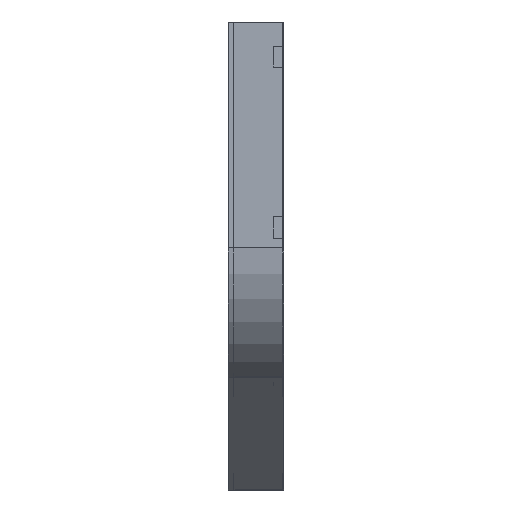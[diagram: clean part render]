
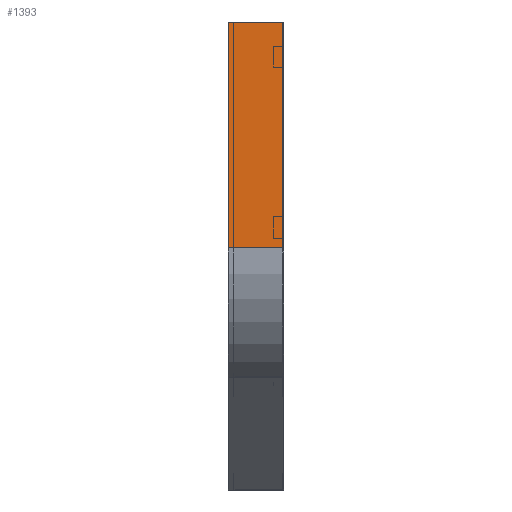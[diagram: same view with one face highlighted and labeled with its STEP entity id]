
A CAD part, left-side view. The second image highlights one B-rep face of the part: STEP entity #1393.
In plain terms, the highlighted planar face has unit normal (-1, 0, 0).
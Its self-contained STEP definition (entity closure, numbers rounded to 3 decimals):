
#13 = DIRECTION ( 'NONE',  ( 0., -1., 0. ) ) ;
#42 = VECTOR ( 'NONE', #13, 1000. ) ;
#55 = CARTESIAN_POINT ( 'NONE',  ( 0., 0., -454.145 ) ) ;
#56 = LINE ( 'NONE', #1333, #1825 ) ;
#114 = AXIS2_PLACEMENT_3D ( 'NONE', #1718, #1603, #1551 ) ;
#270 = CARTESIAN_POINT ( 'NONE',  ( 0., 112.5, 0. ) ) ;
#334 = LINE ( 'NONE', #55, #1310 ) ;
#453 = PLANE ( 'NONE',  #114 ) ;
#465 = DIRECTION ( 'NONE',  ( 0., 0., -1. ) ) ;
#514 = ORIENTED_EDGE ( 'NONE', *, *, #1038, .T. ) ;
#550 = CARTESIAN_POINT ( 'NONE',  ( 0., 112.5, -454.145 ) ) ;
#617 = VERTEX_POINT ( 'NONE', #550 ) ;
#669 = EDGE_LOOP ( 'NONE', ( #1622, #784, #1451, #514 ) ) ;
#722 = EDGE_CURVE ( 'NONE', #1688, #617, #56, .T. ) ;
#784 = ORIENTED_EDGE ( 'NONE', *, *, #874, .F. ) ;
#818 = CARTESIAN_POINT ( 'NONE',  ( 0., 0., 0. ) ) ;
#861 = CARTESIAN_POINT ( 'NONE',  ( 0., 0., -454.145 ) ) ;
#874 = EDGE_CURVE ( 'NONE', #1688, #1253, #1168, .T. ) ;
#1038 = EDGE_CURVE ( 'NONE', #617, #1352, #334, .T. ) ;
#1066 = DIRECTION ( 'NONE',  ( 0., -1., 0. ) ) ;
#1168 = LINE ( 'NONE', #1737, #42 ) ;
#1175 = EDGE_CURVE ( 'NONE', #1253, #1352, #1694, .T. ) ;
#1253 = VERTEX_POINT ( 'NONE', #818 ) ;
#1310 = VECTOR ( 'NONE', #1066, 1000. ) ;
#1333 = CARTESIAN_POINT ( 'NONE',  ( 0., 112.5, 0. ) ) ;
#1352 = VERTEX_POINT ( 'NONE', #861 ) ;
#1393 = ADVANCED_FACE ( 'NONE', ( #1748 ), #453, .F. ) ;
#1451 = ORIENTED_EDGE ( 'NONE', *, *, #722, .T. ) ;
#1522 = VECTOR ( 'NONE', #1831, 1000. ) ;
#1551 = DIRECTION ( 'NONE',  ( 0., 0., -1. ) ) ;
#1603 = DIRECTION ( 'NONE',  ( 1., 0., 0. ) ) ;
#1622 = ORIENTED_EDGE ( 'NONE', *, *, #1175, .F. ) ;
#1687 = CARTESIAN_POINT ( 'NONE',  ( 0., 0., 0. ) ) ;
#1688 = VERTEX_POINT ( 'NONE', #270 ) ;
#1694 = LINE ( 'NONE', #1687, #1522 ) ;
#1718 = CARTESIAN_POINT ( 'NONE',  ( 0., 0., 0. ) ) ;
#1737 = CARTESIAN_POINT ( 'NONE',  ( 0., 0., 0. ) ) ;
#1748 = FACE_OUTER_BOUND ( 'NONE', #669, .T. ) ;
#1825 = VECTOR ( 'NONE', #465, 1000. ) ;
#1831 = DIRECTION ( 'NONE',  ( 0., 0., -1. ) ) ;
